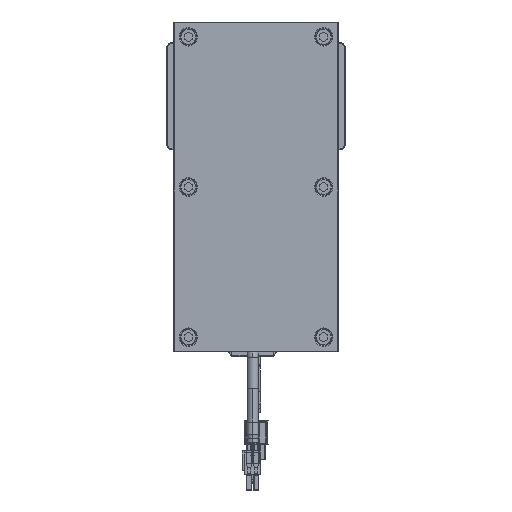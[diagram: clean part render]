
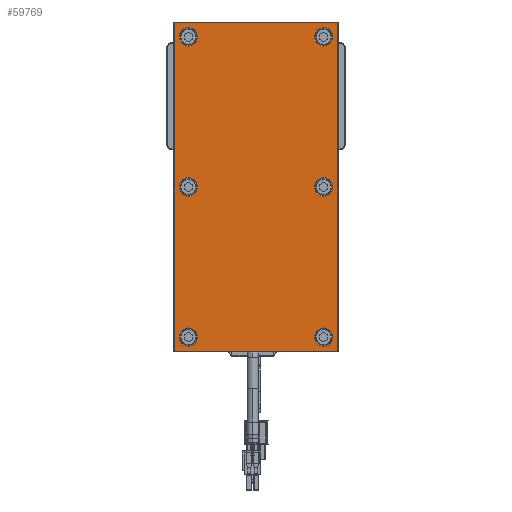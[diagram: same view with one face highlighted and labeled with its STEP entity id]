
A CAD part, front view. The second image highlights one B-rep face of the part: STEP entity #59769.
In plain terms, the highlighted planar face has unit normal (0, -1, 0).
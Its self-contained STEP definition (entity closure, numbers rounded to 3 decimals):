
#58358=CARTESIAN_POINT('',(99.,-7.,-49.));
#58359=DIRECTION('',(0.,-1.,0.));
#58360=DIRECTION('',(0.,0.,-1.));
#58361=AXIS2_PLACEMENT_3D('',#58358,#58359,#58360);
#58363=DIRECTION('',(1.,0.,0.));
#58364=VECTOR('',#58363,198.);
#58365=CARTESIAN_POINT('',(-99.,-7.,
-49.5));
#58366=LINE('',#58365,#58364);
#58367=CARTESIAN_POINT('',(-99.,-7.,-49.));
#58368=DIRECTION('',(0.,-1.,0.));
#58369=DIRECTION('',(-1.,0.,0.));
#58370=AXIS2_PLACEMENT_3D('',#58367,#58368,#58369);
#58372=DIRECTION('',(0.,0.,-1.));
#58373=VECTOR('',#58372,98.);
#58374=CARTESIAN_POINT('',(-99.5,-7.,
49.));
#58375=LINE('',#58374,#58373);
#58376=CARTESIAN_POINT('',(-99.,-7.,49.));
#58377=DIRECTION('',(0.,-1.,0.));
#58378=DIRECTION('',(0.,0.,1.));
#58379=AXIS2_PLACEMENT_3D('',#58376,#58377,#58378);
#58381=DIRECTION('',(-1.,0.,0.));
#58382=VECTOR('',#58381,198.);
#58383=CARTESIAN_POINT('',(99.,-7.,
49.5));
#58384=LINE('',#58383,#58382);
#58385=CARTESIAN_POINT('',(99.,-7.,49.));
#58386=DIRECTION('',(0.,-1.,0.));
#58387=DIRECTION('',(1.,0.,0.));
#58388=AXIS2_PLACEMENT_3D('',#58385,#58386,#58387);
#58390=DIRECTION('',(0.,0.,1.));
#58391=VECTOR('',#58390,98.);
#58392=CARTESIAN_POINT('',(99.5,-7.,
-49.));
#58393=LINE('',#58392,#58391);
#58394=CARTESIAN_POINT('',(-91.,-7.,-41.));
#58395=DIRECTION('',(0.,1.,0.));
#58396=DIRECTION('',(1.,0.,0.));
#58397=AXIS2_PLACEMENT_3D('',#58394,#58395,#58396);
#58399=CARTESIAN_POINT('',(-91.,-7.,-41.));
#58400=DIRECTION('',(0.,1.,0.));
#58401=DIRECTION('',(-1.,0.,0.));
#58402=AXIS2_PLACEMENT_3D('',#58399,#58400,#58401);
#58404=CARTESIAN_POINT('',(0.,-7.,-41.));
#58405=DIRECTION('',(0.,1.,0.));
#58406=DIRECTION('',(1.,0.,0.));
#58407=AXIS2_PLACEMENT_3D('',#58404,#58405,#58406);
#58409=CARTESIAN_POINT('',(0.,-7.,-41.));
#58410=DIRECTION('',(0.,1.,0.));
#58411=DIRECTION('',(-1.,0.,0.));
#58412=AXIS2_PLACEMENT_3D('',#58409,#58410,#58411);
#58414=CARTESIAN_POINT('',(91.,-7.,-41.));
#58415=DIRECTION('',(0.,1.,0.));
#58416=DIRECTION('',(1.,0.,0.));
#58417=AXIS2_PLACEMENT_3D('',#58414,#58415,#58416);
#58419=CARTESIAN_POINT('',(91.,-7.,-41.));
#58420=DIRECTION('',(0.,1.,0.));
#58421=DIRECTION('',(-1.,0.,0.));
#58422=AXIS2_PLACEMENT_3D('',#58419,#58420,#58421);
#58424=CARTESIAN_POINT('',(91.,-7.,41.));
#58425=DIRECTION('',(0.,1.,0.));
#58426=DIRECTION('',(1.,0.,0.));
#58427=AXIS2_PLACEMENT_3D('',#58424,#58425,#58426);
#58429=CARTESIAN_POINT('',(91.,-7.,41.));
#58430=DIRECTION('',(0.,1.,0.));
#58431=DIRECTION('',(-1.,0.,0.));
#58432=AXIS2_PLACEMENT_3D('',#58429,#58430,#58431);
#58434=CARTESIAN_POINT('',(0.,-7.,41.));
#58435=DIRECTION('',(0.,1.,0.));
#58436=DIRECTION('',(1.,0.,0.));
#58437=AXIS2_PLACEMENT_3D('',#58434,#58435,#58436);
#58439=CARTESIAN_POINT('',(0.,-7.,41.));
#58440=DIRECTION('',(0.,1.,0.));
#58441=DIRECTION('',(-1.,0.,0.));
#58442=AXIS2_PLACEMENT_3D('',#58439,#58440,#58441);
#58444=CARTESIAN_POINT('',(-91.,-7.,41.));
#58445=DIRECTION('',(0.,1.,0.));
#58446=DIRECTION('',(1.,0.,0.));
#58447=AXIS2_PLACEMENT_3D('',#58444,#58445,#58446);
#58449=CARTESIAN_POINT('',(-91.,-7.,41.));
#58450=DIRECTION('',(0.,1.,0.));
#58451=DIRECTION('',(-1.,0.,0.));
#58452=AXIS2_PLACEMENT_3D('',#58449,#58450,#58451);
#59510=CARTESIAN_POINT('',(99.,-7.,-49.5));
#59511=CARTESIAN_POINT('',(99.5,-7.,-49.));
#59512=VERTEX_POINT('',#59510);
#59513=VERTEX_POINT('',#59511);
#59518=CARTESIAN_POINT('',(99.5,-7.,
49.));
#59519=VERTEX_POINT('',#59518);
#59522=CARTESIAN_POINT('',(99.,-7.,49.5));
#59523=VERTEX_POINT('',#59522);
#59526=CARTESIAN_POINT('',(-99.,-7.,
49.5));
#59527=VERTEX_POINT('',#59526);
#59530=CARTESIAN_POINT('',(-99.5,-7.,49.));
#59531=VERTEX_POINT('',#59530);
#59534=CARTESIAN_POINT('',(-99.5,-7.,
-49.));
#59535=VERTEX_POINT('',#59534);
#59538=CARTESIAN_POINT('',(-99.,-7.,-49.5));
#59539=VERTEX_POINT('',#59538);
#59566=CARTESIAN_POINT('',(-85.45,-7.,-41.));
#59567=CARTESIAN_POINT('',(-96.55,-7.,-41.));
#59568=VERTEX_POINT('',#59566);
#59569=VERTEX_POINT('',#59567);
#59582=CARTESIAN_POINT('',(5.55,-7.,-41.));
#59583=CARTESIAN_POINT('',(-5.55,-7.,-41.));
#59584=VERTEX_POINT('',#59582);
#59585=VERTEX_POINT('',#59583);
#59606=CARTESIAN_POINT('',(96.55,-7.,-41.));
#59607=CARTESIAN_POINT('',(85.45,-7.,-41.));
#59608=VERTEX_POINT('',#59606);
#59609=VERTEX_POINT('',#59607);
#59622=CARTESIAN_POINT('',(96.55,-7.,41.));
#59623=CARTESIAN_POINT('',(85.45,-7.,41.));
#59624=VERTEX_POINT('',#59622);
#59625=VERTEX_POINT('',#59623);
#59630=CARTESIAN_POINT('',(5.55,-7.,41.));
#59631=CARTESIAN_POINT('',(-5.55,-7.,41.));
#59632=VERTEX_POINT('',#59630);
#59633=VERTEX_POINT('',#59631);
#59654=CARTESIAN_POINT('',(-85.45,-7.,41.));
#59655=CARTESIAN_POINT('',(-96.55,-7.,41.));
#59656=VERTEX_POINT('',#59654);
#59657=VERTEX_POINT('',#59655);
#59710=CARTESIAN_POINT('',(0.,-7.,0.));
#59711=DIRECTION('',(0.,1.,0.));
#59712=DIRECTION('',(1.,0.,0.));
#59713=AXIS2_PLACEMENT_3D('',#59710,#59711,#59712);
#59714=PLANE('',#59713);
#59716=ORIENTED_EDGE('',*,*,#59715,.F.);
#59718=ORIENTED_EDGE('',*,*,#59717,.F.);
#59720=ORIENTED_EDGE('',*,*,#59719,.F.);
#59722=ORIENTED_EDGE('',*,*,#59721,.F.);
#59724=ORIENTED_EDGE('',*,*,#59723,.F.);
#59726=ORIENTED_EDGE('',*,*,#59725,.F.);
#59728=ORIENTED_EDGE('',*,*,#59727,.F.);
#59730=ORIENTED_EDGE('',*,*,#59729,.F.);
#59731=EDGE_LOOP('',(#59716,#59718,#59720,#59722,#59724,#59726,#59728,#59730));
#59732=FACE_OUTER_BOUND('',#59731,.F.);
#59734=ORIENTED_EDGE('',*,*,#59733,.F.);
#59736=ORIENTED_EDGE('',*,*,#59735,.F.);
#59737=EDGE_LOOP('',(#59734,#59736));
#59738=FACE_BOUND('',#59737,.F.);
#59740=ORIENTED_EDGE('',*,*,#59739,.F.);
#59742=ORIENTED_EDGE('',*,*,#59741,.F.);
#59743=EDGE_LOOP('',(#59740,#59742));
#59744=FACE_BOUND('',#59743,.F.);
#59746=ORIENTED_EDGE('',*,*,#59745,.F.);
#59748=ORIENTED_EDGE('',*,*,#59747,.F.);
#59749=EDGE_LOOP('',(#59746,#59748));
#59750=FACE_BOUND('',#59749,.F.);
#59752=ORIENTED_EDGE('',*,*,#59751,.F.);
#59754=ORIENTED_EDGE('',*,*,#59753,.F.);
#59755=EDGE_LOOP('',(#59752,#59754));
#59756=FACE_BOUND('',#59755,.F.);
#59758=ORIENTED_EDGE('',*,*,#59757,.F.);
#59760=ORIENTED_EDGE('',*,*,#59759,.F.);
#59761=EDGE_LOOP('',(#59758,#59760));
#59762=FACE_BOUND('',#59761,.F.);
#59764=ORIENTED_EDGE('',*,*,#59763,.F.);
#59766=ORIENTED_EDGE('',*,*,#59765,.F.);
#59767=EDGE_LOOP('',(#59764,#59766));
#59768=FACE_BOUND('',#59767,.F.);
#59769=ADVANCED_FACE('',(#59732,#59738,#59744,#59750,#59756,#59762,#59768),
#59714,.F.);
#58362=CIRCLE('',#58361,0.5);
#58371=CIRCLE('',#58370,0.5);
#58380=CIRCLE('',#58379,0.5);
#58389=CIRCLE('',#58388,0.5);
#58398=CIRCLE('',#58397,5.55);
#58403=CIRCLE('',#58402,5.55);
#58408=CIRCLE('',#58407,5.55);
#58413=CIRCLE('',#58412,5.55);
#58418=CIRCLE('',#58417,5.55);
#58423=CIRCLE('',#58422,5.55);
#58428=CIRCLE('',#58427,5.55);
#58433=CIRCLE('',#58432,5.55);
#58438=CIRCLE('',#58437,5.55);
#58443=CIRCLE('',#58442,5.55);
#58448=CIRCLE('',#58447,5.55);
#58453=CIRCLE('',#58452,5.55);
#59715=EDGE_CURVE('',#59512,#59513,#58362,.T.);
#59717=EDGE_CURVE('',#59539,#59512,#58366,.T.);
#59719=EDGE_CURVE('',#59535,#59539,#58371,.T.);
#59721=EDGE_CURVE('',#59531,#59535,#58375,.T.);
#59723=EDGE_CURVE('',#59527,#59531,#58380,.T.);
#59725=EDGE_CURVE('',#59523,#59527,#58384,.T.);
#59727=EDGE_CURVE('',#59519,#59523,#58389,.T.);
#59729=EDGE_CURVE('',#59513,#59519,#58393,.T.);
#59733=EDGE_CURVE('',#59568,#59569,#58398,.T.);
#59735=EDGE_CURVE('',#59569,#59568,#58403,.T.);
#59739=EDGE_CURVE('',#59584,#59585,#58408,.T.);
#59741=EDGE_CURVE('',#59585,#59584,#58413,.T.);
#59745=EDGE_CURVE('',#59608,#59609,#58418,.T.);
#59747=EDGE_CURVE('',#59609,#59608,#58423,.T.);
#59751=EDGE_CURVE('',#59624,#59625,#58428,.T.);
#59753=EDGE_CURVE('',#59625,#59624,#58433,.T.);
#59757=EDGE_CURVE('',#59632,#59633,#58438,.T.);
#59759=EDGE_CURVE('',#59633,#59632,#58443,.T.);
#59763=EDGE_CURVE('',#59656,#59657,#58448,.T.);
#59765=EDGE_CURVE('',#59657,#59656,#58453,.T.);
